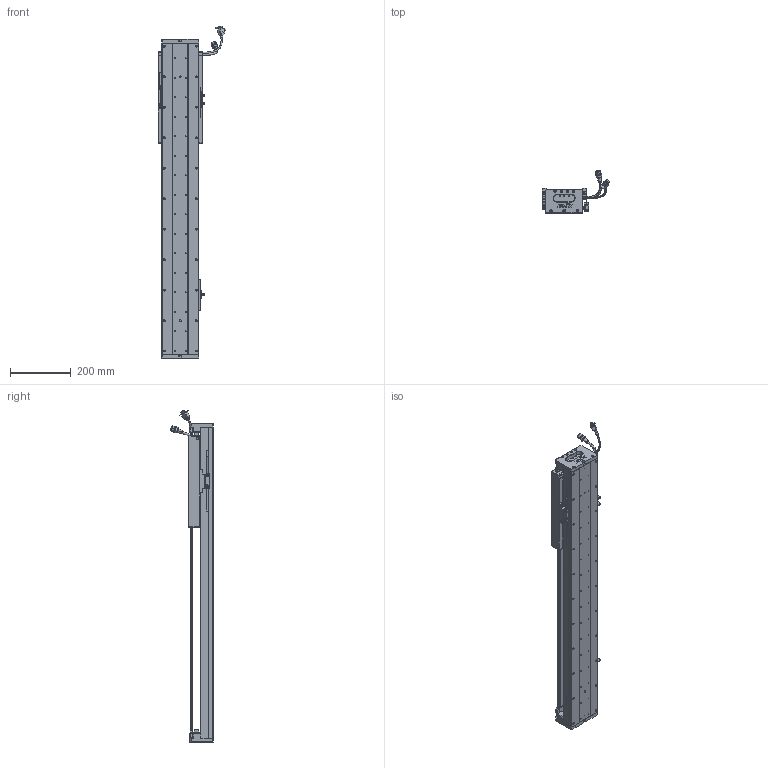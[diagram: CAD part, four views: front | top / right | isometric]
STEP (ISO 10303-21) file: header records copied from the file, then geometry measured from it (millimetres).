
FILE_DESCRIPTION (( 'STEP AP203' ), '1' );
FILE_NAME ('Z4-RY120D-1-L500-B-K.SLDASM_0650.step', '2021-05-17T06:06:22', ( '盈信电脑' ), ( '东莞市道滘镇水果街19号' ), 'SwSTEP 2.0', 'SolidWorks 2016', '' );
FILE_SCHEMA (( 'CONFIG_CONTROL_DESIGN' ));
Length unit declared in the file: millimetre
Products named in the file (37): SCALE-Part-1; Z4-RY120-L500詩湍100mm遵_0650; Z4-RY120D-1-L500-B-K.SLDASM_0650; Z4-RY120-500-倰第菁釱_0650; Z-RY120D詩湍狟揤裔; PSLH080_PSLF2; COVER; SCREW-M1.6; SCALE; 覜茼ん672; LABEL-Part-1; COVER-Part-1; HARNESS; 080黍杅芛假蚾釱21遴; Z-120詩湍傷裔啣; 140蚥薯蝶輸; PBU_SHEET; SHIELDPLATE; 140雄赽晤鎢ん堤盄; 672嫖萇羲壽假蚾釱; Z-RY120D詩湍奻揤裔; 120-Z-臏賑輸盄裔(21遴); Z4-RY120铝滑块（21款）; SCREW-M1.7; SEAL-Part-1; SCREW-M1.6-1; HARNESS-Part-2; RY100FB-遵嫖萇覜茼え; HARNESS-Part-1; SEAL; SCREW-M1.6-2; LABEL; SCREW-M1.6-3; 榋妏寠巭燃_暯_M2_2; HOLDER0; SCALE-Part-2; SCREW-M1.7-1
Assembly tree (43 placements, depth 4):
  Z4-RY120D-1-L500-B-K.SLDASM_0650
    Z4-RY120-500-倰第菁釱_0650
    覜茼ん672  x3
    672嫖萇羲壽假蚾釱  x2
    Z4-RY120铝滑块（21款）
    PSLH080_PSLF2
      SCALE
        SCALE-Part-1
        SCALE-Part-2
      HARNESS
        HARNESS-Part-1
        HARNESS-Part-2
      LABEL
        LABEL-Part-1
      COVER
        COVER-Part-1
      SEAL
        SEAL-Part-1
      榋妏寠巭燃_暯_M2_2
      SHIELDPLATE
      SCREW-M1.7
      SCREW-M1.7-1
      PBU_SHEET
      SCREW-M1.6
      SCREW-M1.6-1
      SCREW-M1.6-2
      SCREW-M1.6-3
      HOLDER0
    080黍杅芛假蚾釱21遴
    120-Z-臏賑輸盄裔(21遴)
    140雄赽晤鎢ん堤盄
    140蚥薯蝶輸  x2
    RY100FB-遵嫖萇覜茼え
    Z-120詩湍傷裔啣  x2
    Z-RY120D詩湍奻揤裔  x2
    Z-RY120D詩湍狟揤裔  x2
    Z4-RY120-L500詩湍100mm遵_0650
Bounding box: 222.88 x 140.94 x 1089 mm (x, y, z)
Volume: 3262481.8 mm3; surface area: 1054614.5 mm2
Topology: 38 solids, 38 shells, 2849 faces, 7716 edges, 4876 vertices
Faces by surface type: cylinder 1320, plane 1129, cone 278, torus 69, bspline 53
Entity records: 86145 total; most frequent: CARTESIAN_POINT 23190, ORIENTED_EDGE 12400, DIRECTION 12134, EDGE_CURVE 6200, AXIS2_PLACEMENT_3D 4442, VERTEX_POINT 3996, VECTOR 3250, LINE 3250
